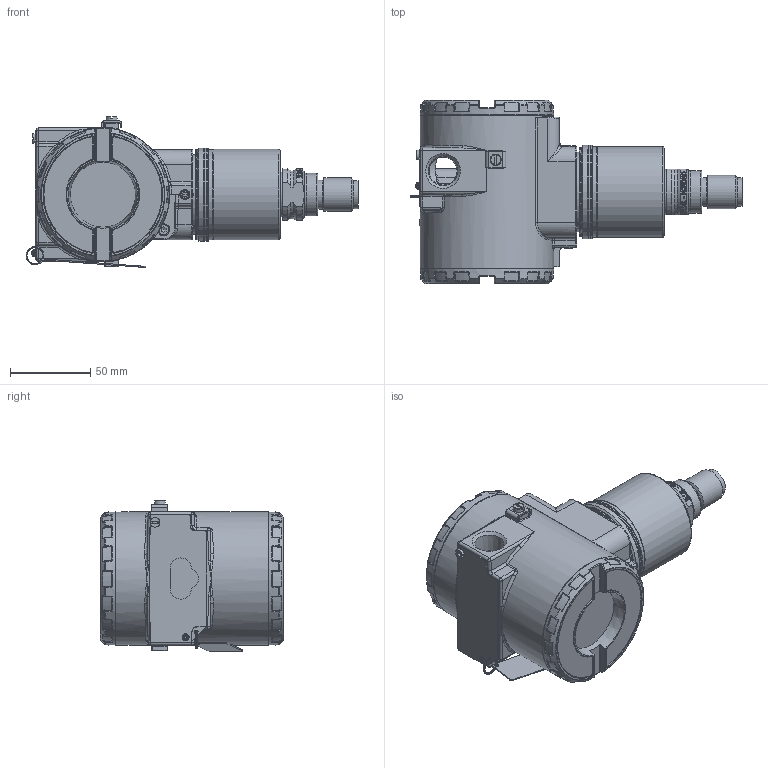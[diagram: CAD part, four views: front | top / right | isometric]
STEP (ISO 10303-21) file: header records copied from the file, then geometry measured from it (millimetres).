
FILE_DESCRIPTION(/* description */ (''),/* implementation_level */ '2;1');
FILE_NAME(/* name */ 'F:\Area\Desenvolvimento_2\Projects\Sensor\projetos\LD29X\3d\dimensionais 3D - clientes\LD29XM5 G1-2 B HP.stp',/* time_stamp */ '2023-01-31T10:07:14-03:00',/* author */ ('inventor02'),/* organization */ (''),/* preprocessor_version */ 'ST-DEVELOPER v17',/* originating_system */ 'Autodesk Inventor 2019',/* authorisation */ '');
FILE_SCHEMA (('CONFIG_CONTROL_DESIGN'));
Products named in the file (27): LD29XM5 G1-2 B HP; SENSOR 29X FX5 G1-2 B HP; 101-B-5897-01 capa fx5; 101-C-3677-06 conexao ao processo 1-2NPT; 101-D-1309-04 pescoço LD29x usinado; 101-B-1773-06 conexão G1-2 B HP EN837-1; carcaça vazia com tampas e plaqueta; carcaça LD inox sem letras; Subconjunto plaqueta 300; Plaqueta transmissor; Parafuso da Plaqueta; Rebite da Plaqueta; 096-A-0169-03; 101-A-0502-01; Chapa aterramento externo; ISO 1207 - M4 x 8; DIN 915 - M6 x 10; ANSI B18.3.1M - M4x0,7 x 8; Subconjunto tampa com visor aluminio; tampa pintada; VIDRO DO VISOR; oring 41x1 vidro tampa; Trava do vidro da tampa com visor; trava do vidro VH256; Subconjunto tampa sem visor-aluminio; tampa cega 300 pintada p0; 00034775-0
Assembly tree (28 placements, depth 4):
  LD29XM5 G1-2 B HP
    SENSOR 29X FX5 G1-2 B HP
      101-B-5897-01 capa fx5
      101-C-3677-06 conexao ao processo 1-2NPT
      101-D-1309-04 pescoço LD29x usinado
      101-B-1773-06 conexão G1-2 B HP EN837-1
    carcaça vazia com tampas e plaqueta
      carcaça LD inox sem letras
      Subconjunto plaqueta 300
        Plaqueta transmissor
        Parafuso da Plaqueta
        Rebite da Plaqueta
        096-A-0169-03
        101-A-0502-01
      Chapa aterramento externo
      ISO 1207 - M4 x 8
      DIN 915 - M6 x 10
      ANSI B18.3.1M - M4x0,7 x 8  x2
      Subconjunto tampa com visor aluminio
        tampa pintada
        VIDRO DO VISOR
        oring 41x1 vidro tampa
        Trava do vidro da tampa com visor
        trava do vidro VH256
        00034775-0
      Subconjunto tampa sem visor-aluminio
        tampa cega 300 pintada p0
        00034775-0
Bounding box: 206.59 x 114 x 93.95 mm (x, y, z)
Volume: 422392.9 mm3; surface area: 185184.1 mm2
Topology: 23 solids, 23 shells, 1930 faces, 4709 edges, 2820 vertices
Faces by surface type: bspline 575, cylinder 433, plane 387, torus 268, cone 162, sphere 105
Full cylindrical faces by diameter (mm): 2 x2, 2.1 x2, 2.459 x5, 2.642 x1, 2.7 x1, 3 x1, 3.242 x4, 3.5 x8, 3.571 x1, 4 x4, 4.3 x1, 4.4 x2, 4.917 x1, 6 x2, 7 x4, 7.087 x2, 7.6 x2, 8 x1, 8.7 x2, 17.475 x2, 17.5 x2, 18 x2, 20.8 x1, 26.5 x2, 28.399 x1, 32.2 x1, 34.15 x1, 35.15 x1, 35.2 x1, 36 x1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
Entity records: 71788 total; most frequent: CARTESIAN_POINT 28140, ORIENTED_EDGE 9190, DIRECTION 8538, EDGE_CURVE 4595, AXIS2_PLACEMENT_3D 3696, VERTEX_POINT 2791, CIRCLE 2175, EDGE_LOOP 2022
